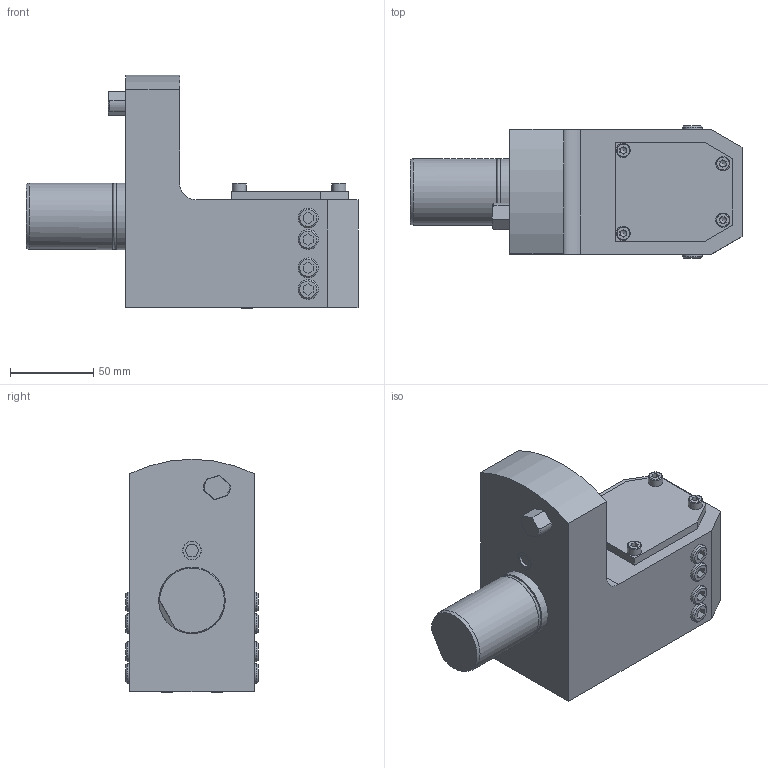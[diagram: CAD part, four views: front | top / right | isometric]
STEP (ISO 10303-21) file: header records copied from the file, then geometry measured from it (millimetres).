
FILE_DESCRIPTION(/* description */ (''),/* implementation_level */ '2;1');
FILE_NAME(/* name */ '117961',/* time_stamp */ '2020-12-18T11:44:08+01:00',/* author */ (''),/* organization */ (''),/* preprocessor_version */ 'ST-DEVELOPER v16.5',/* originating_system */ 'HiCAD 2017 2201.0 Build 268',/* authorisation */ '');
FILE_SCHEMA (('AUTOMOTIVE_DESIGN { 1 0 10303 214 1 1 1 1 }'));
Length unit declared in the file: millimetre
Products named in the file (11): Root; Teil; GEWINDE; DIN 13-M12
Assembly tree (10 placements, depth 3):
  Root
    Teil
      GEWINDE
      GEWINDE
      GEWINDE
      GEWINDE
      GEWINDE
      GEWINDE
      GEWINDE
      GEWINDE
      DIN 13-M12
Bounding box: 200 x 80 x 140.66 mm (x, y, z)
Volume: 862898.6 mm3; surface area: 110662.7 mm2
Topology: 25 solids, 25 shells, 452 faces, 1081 edges, 700 vertices
Faces by surface type: plane 281, cylinder 87, bspline 44, cone 33, torus 5, sphere 2
Full cylindrical faces by diameter (mm): 7.65 x1, 8.5 x12, 10.2 x24, 11.01 x1, 11.1 x1, 12 x24, 36.5 x2, 40 x3
Entity records: 25924 total; most frequent: CARTESIAN_POINT 5208, PRESENTATION_STYLE_ASSIGNMENT 2143, OVER_RIDING_STYLED_ITEM 2133, COLOUR_RGB 1887, DRAUGHTING_PRE_DEFINED_CURVE_FONT 1882, CURVE_STYLE 1882, ORIENTED_EDGE 1882, DIRECTION 1799
